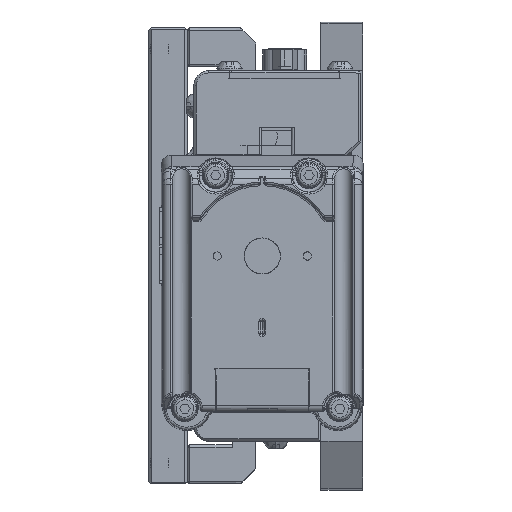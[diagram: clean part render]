
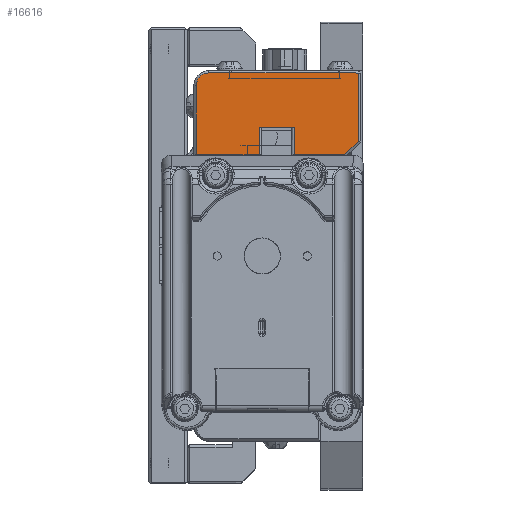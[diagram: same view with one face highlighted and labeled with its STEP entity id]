
A CAD part, left-side view. The second image highlights one B-rep face of the part: STEP entity #16616.
In plain terms, the highlighted planar face has unit normal (-1, 0, 0).
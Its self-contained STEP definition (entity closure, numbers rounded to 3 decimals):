
#556 = LINE ( 'NONE', #88147, #46214 ) ;
#3975 = CARTESIAN_POINT ( 'NONE',  ( -73.66, 14.554, 60.706 ) ) ;
#4240 = CARTESIAN_POINT ( 'NONE',  ( -73.66, 14.554, 66.548 ) ) ;
#9452 = EDGE_CURVE ( 'NONE', #45554, #72435, #556, .T. ) ;
#10644 = VECTOR ( 'NONE', #97492, 1000. ) ;
#13637 = CARTESIAN_POINT ( 'NONE',  ( -73.66, 21.92, 60.706 ) ) ;
#15056 = EDGE_CURVE ( 'NONE', #102662, #72435, #95525, .T. ) ;
#15246 = EDGE_CURVE ( 'NONE', #37536, #102662, #100101, .T. ) ;
#15543 = DIRECTION ( 'NONE',  ( 0., 0., 1. ) ) ;
#15562 = DIRECTION ( 'NONE',  ( -1., 0., 0. ) ) ;
#15899 = EDGE_CURVE ( 'NONE', #37536, #46797, #21978, .T. ) ;
#16406 = PLANE ( 'NONE',  #53851 ) ;
#16616 = ADVANCED_FACE ( 'NONE', ( #41587 ), #16406, .T. ) ;
#16991 = CARTESIAN_POINT ( 'NONE',  ( -73.66, 35.763, 78.486 ) ) ;
#18190 = VERTEX_POINT ( 'NONE', #93985 ) ;
#18922 = VECTOR ( 'NONE', #61347, 1000. ) ;
#19357 = DIRECTION ( 'NONE',  ( 0., 0.707, -0.707 ) ) ;
#21363 = CARTESIAN_POINT ( 'NONE',  ( -73.66, 0.965, 63.583 ) ) ;
#21978 = LINE ( 'NONE', #61913, #18922 ) ;
#22819 = VERTEX_POINT ( 'NONE', #76579 ) ;
#23352 = LINE ( 'NONE', #26612, #43109 ) ;
#25079 = DIRECTION ( 'NONE',  ( 0., 0., -1. ) ) ;
#25291 = VECTOR ( 'NONE', #34458, 1000. ) ;
#26612 = CARTESIAN_POINT ( 'NONE',  ( -73.66, 35.255, 78.486 ) ) ;
#26926 = DIRECTION ( 'NONE',  ( -1., 0., 0. ) ) ;
#27755 = CARTESIAN_POINT ( 'NONE',  ( -73.66, 32.588, 75.311 ) ) ;
#27835 = LINE ( 'NONE', #35730, #50668 ) ;
#28188 = CARTESIAN_POINT ( 'NONE',  ( -73.66, 32.588, 77.978 ) ) ;
#30376 = LINE ( 'NONE', #97316, #10644 ) ;
#30869 = DIRECTION ( 'NONE',  ( 0., 0., -1. ) ) ;
#33464 = CARTESIAN_POINT ( 'NONE',  ( -73.66, 14.554, 78.486 ) ) ;
#34458 = DIRECTION ( 'NONE',  ( 0., 0., -1. ) ) ;
#35144 = EDGE_CURVE ( 'NONE', #46092, #43081, #117486, .T. ) ;
#35730 = CARTESIAN_POINT ( 'NONE',  ( -73.66, 35.763, 60.706 ) ) ;
#37036 = ORIENTED_EDGE ( 'NONE', *, *, #121838, .T. ) ;
#37536 = VERTEX_POINT ( 'NONE', #82278 ) ;
#38346 = EDGE_CURVE ( 'NONE', #43081, #45554, #123483, .T. ) ;
#39817 = ORIENTED_EDGE ( 'NONE', *, *, #44435, .T. ) ;
#40984 = EDGE_CURVE ( 'NONE', #46797, #18190, #78569, .T. ) ;
#41587 = FACE_OUTER_BOUND ( 'NONE', #46525, .T. ) ;
#43081 = VERTEX_POINT ( 'NONE', #4240 ) ;
#43109 = VECTOR ( 'NONE', #25079, 1000. ) ;
#44086 = EDGE_CURVE ( 'NONE', #18190, #22819, #23352, .T. ) ;
#44435 = EDGE_CURVE ( 'NONE', #49313, #46092, #30376, .T. ) ;
#45554 = VERTEX_POINT ( 'NONE', #3975 ) ;
#46044 = ORIENTED_EDGE ( 'NONE', *, *, #35144, .T. ) ;
#46092 = VERTEX_POINT ( 'NONE', #80187 ) ;
#46214 = VECTOR ( 'NONE', #87701, 1000. ) ;
#46525 = EDGE_LOOP ( 'NONE', ( #37036, #39817, #46044, #78128, #81023, #90658, #91987, #102768, #119985, #124458 ) ) ;
#46797 = VERTEX_POINT ( 'NONE', #28188 ) ;
#49313 = VERTEX_POINT ( 'NONE', #13637 ) ;
#50668 = VECTOR ( 'NONE', #54890, 1000. ) ;
#53851 = AXIS2_PLACEMENT_3D ( 'NONE', #16991, #15562, #15543 ) ;
#54890 = DIRECTION ( 'NONE',  ( 0., -1., 0. ) ) ;
#61347 = DIRECTION ( 'NONE',  ( 0., 1., 0. ) ) ;
#61913 = CARTESIAN_POINT ( 'NONE',  ( -73.66, 35.763, 77.978 ) ) ;
#66972 = AXIS2_PLACEMENT_3D ( 'NONE', #27755, #26926, #30869 ) ;
#69283 = VECTOR ( 'NONE', #19357, 1000. ) ;
#72435 = VERTEX_POINT ( 'NONE', #106458 ) ;
#73760 = VECTOR ( 'NONE', #117574, 1000. ) ;
#76579 = CARTESIAN_POINT ( 'NONE',  ( -73.66, 35.255, 60.706 ) ) ;
#78128 = ORIENTED_EDGE ( 'NONE', *, *, #38346, .T. ) ;
#78569 = CIRCLE ( 'NONE', #66972, 2.667 ) ;
#80187 = CARTESIAN_POINT ( 'NONE',  ( -73.66, 21.92, 66.548 ) ) ;
#81023 = ORIENTED_EDGE ( 'NONE', *, *, #9452, .T. ) ;
#82278 = CARTESIAN_POINT ( 'NONE',  ( -73.66, 0.965, 77.978 ) ) ;
#84226 = CARTESIAN_POINT ( 'NONE',  ( -73.66, 0.965, 63.583 ) ) ;
#87701 = DIRECTION ( 'NONE',  ( 0., -1., 0. ) ) ;
#88147 = CARTESIAN_POINT ( 'NONE',  ( -73.66, 35.763, 60.706 ) ) ;
#90658 = ORIENTED_EDGE ( 'NONE', *, *, #15056, .F. ) ;
#91261 = VECTOR ( 'NONE', #107430, 1000. ) ;
#91987 = ORIENTED_EDGE ( 'NONE', *, *, #15246, .F. ) ;
#93985 = CARTESIAN_POINT ( 'NONE',  ( -73.66, 35.255, 75.311 ) ) ;
#95525 = LINE ( 'NONE', #21363, #69283 ) ;
#97316 = CARTESIAN_POINT ( 'NONE',  ( -73.66, 21.92, 78.486 ) ) ;
#97492 = DIRECTION ( 'NONE',  ( 0., 0., 1. ) ) ;
#100101 = LINE ( 'NONE', #117871, #73760 ) ;
#102662 = VERTEX_POINT ( 'NONE', #84226 ) ;
#102768 = ORIENTED_EDGE ( 'NONE', *, *, #15899, .T. ) ;
#106458 = CARTESIAN_POINT ( 'NONE',  ( -73.66, 3.843, 60.706 ) ) ;
#107430 = DIRECTION ( 'NONE',  ( 0., -1., 0. ) ) ;
#108157 = CARTESIAN_POINT ( 'NONE',  ( -73.66, 35.763, 66.548 ) ) ;
#117486 = LINE ( 'NONE', #108157, #91261 ) ;
#117574 = DIRECTION ( 'NONE',  ( 0., 0., -1. ) ) ;
#117871 = CARTESIAN_POINT ( 'NONE',  ( -73.66, 0.965, 78.486 ) ) ;
#119985 = ORIENTED_EDGE ( 'NONE', *, *, #40984, .T. ) ;
#121838 = EDGE_CURVE ( 'NONE', #22819, #49313, #27835, .T. ) ;
#123483 = LINE ( 'NONE', #33464, #25291 ) ;
#124458 = ORIENTED_EDGE ( 'NONE', *, *, #44086, .T. ) ;
